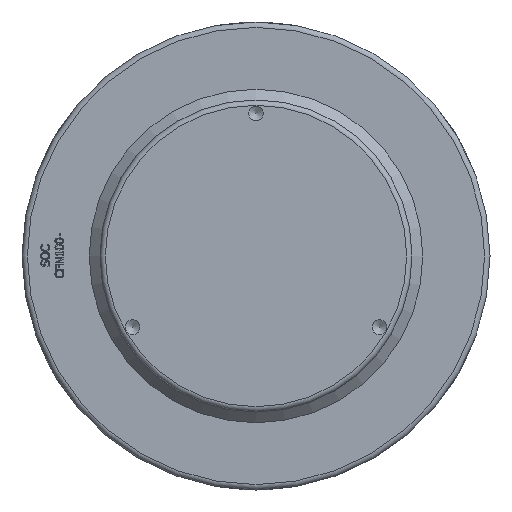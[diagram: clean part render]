
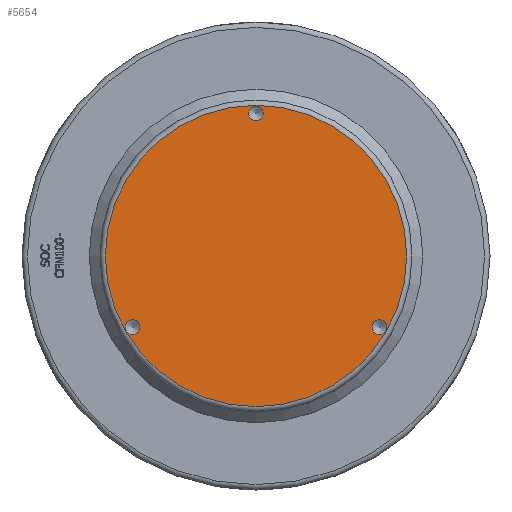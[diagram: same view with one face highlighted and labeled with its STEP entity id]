
A CAD part, front view. The second image highlights one B-rep face of the part: STEP entity #5654.
In plain terms, the highlighted planar face has unit normal (0, -1, 0) as drawn and (0, 1, 0) by its records, which use the part's own axes.
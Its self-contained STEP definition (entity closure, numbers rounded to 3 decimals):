
#1531=PLANE('',#5954);
#1611=FACE_BOUND('',#2163,.T.);
#1612=FACE_BOUND('',#2164,.T.);
#1613=FACE_BOUND('',#2165,.T.);
#1819=FACE_OUTER_BOUND('',#2162,.T.);
#2162=EDGE_LOOP('',(#4621));
#2163=EDGE_LOOP('',(#4622));
#2164=EDGE_LOOP('',(#4623));
#2165=EDGE_LOOP('',(#4624));
#2375=CIRCLE('',#5881,6.918);
#2377=CIRCLE('',#5885,6.918);
#2379=CIRCLE('',#5889,6.918);
#2381=CIRCLE('',#5952,140.);
#2401=VERTEX_POINT('',#6884);
#2403=VERTEX_POINT('',#6890);
#2405=VERTEX_POINT('',#6896);
#2675=VERTEX_POINT('',#8849);
#2973=EDGE_CURVE('',#2401,#2401,#2375,.T.);
#2975=EDGE_CURVE('',#2403,#2403,#2377,.T.);
#2977=EDGE_CURVE('',#2405,#2405,#2379,.T.);
#3381=EDGE_CURVE('',#2675,#2675,#2381,.T.);
#4621=ORIENTED_EDGE('',*,*,#3381,.F.);
#4622=ORIENTED_EDGE('',*,*,#2973,.T.);
#4623=ORIENTED_EDGE('',*,*,#2975,.T.);
#4624=ORIENTED_EDGE('',*,*,#2977,.T.);
#5654=ADVANCED_FACE('',(#1819,#1611,#1612,#1613),#1531,.T.);
#5881=AXIS2_PLACEMENT_3D('',#6885,#6069,#6070);
#5885=AXIS2_PLACEMENT_3D('',#6891,#6077,#6078);
#5889=AXIS2_PLACEMENT_3D('',#6897,#6085,#6086);
#5952=AXIS2_PLACEMENT_3D('',#8850,#6439,#6440);
#5954=AXIS2_PLACEMENT_3D('',#8853,#6443,#6444);
#6069=DIRECTION('center_axis',(0.,-1.,0.));
#6070=DIRECTION('ref_axis',(-0.5,0.,-0.866));
#6077=DIRECTION('center_axis',(0.,-1.,0.));
#6078=DIRECTION('ref_axis',(-0.5,0.,0.866));
#6085=DIRECTION('center_axis',(0.,-1.,0.));
#6086=DIRECTION('ref_axis',(1.,0.,0.));
#6439=DIRECTION('center_axis',(0.,-1.,0.));
#6440=DIRECTION('ref_axis',(-1.,0.,0.));
#6443=DIRECTION('center_axis',(0.,1.,0.));
#6444=DIRECTION('ref_axis',(0.,0.,1.));
#6884=CARTESIAN_POINT('',(111.29,262.5,-72.241));
#6885=CARTESIAN_POINT('Origin',(114.748,262.5,-66.25));
#6890=CARTESIAN_POINT('',(-118.207,262.5,-60.259));
#6891=CARTESIAN_POINT('Origin',(-114.748,262.5,-66.25));
#6896=CARTESIAN_POINT('',(6.918,262.5,132.5));
#6897=CARTESIAN_POINT('Origin',(0.,262.5,132.5));
#8849=CARTESIAN_POINT('',(140.,262.5,0.));
#8850=CARTESIAN_POINT('Origin',(0.,262.5,0.));
#8853=CARTESIAN_POINT('Origin',(145.,262.5,0.));
